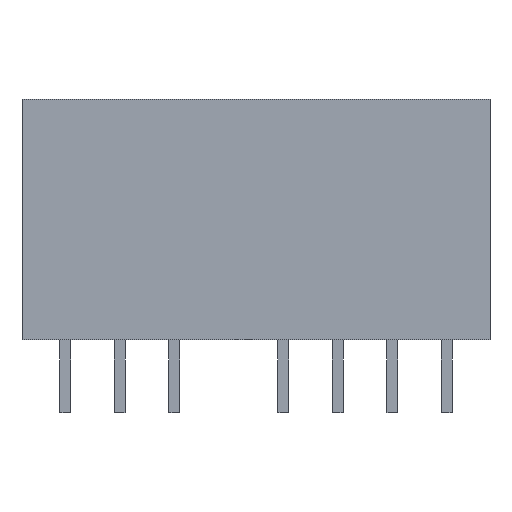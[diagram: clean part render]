
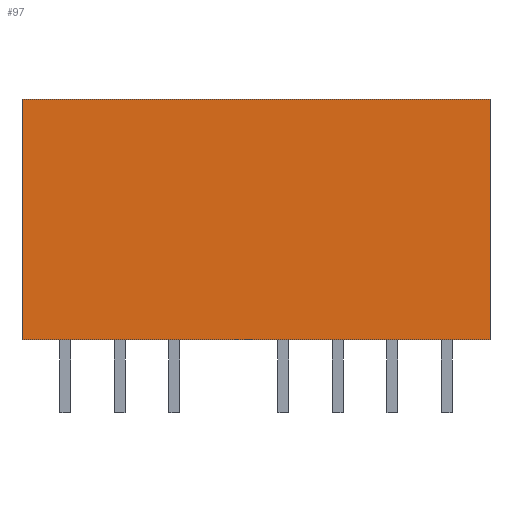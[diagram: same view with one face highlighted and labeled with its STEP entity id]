
A CAD part, front view. The second image highlights one B-rep face of the part: STEP entity #97.
In plain terms, the highlighted planar face has unit normal (0, -1, 0).
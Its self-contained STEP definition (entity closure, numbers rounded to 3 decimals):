
#21 = EDGE_CURVE('',#22,#24,#26,.T.);
#22 = VERTEX_POINT('',#23);
#23 = CARTESIAN_POINT('',(-2.01,-6.8,0.4));
#24 = VERTEX_POINT('',#25);
#25 = CARTESIAN_POINT('',(-2.01,-6.8,11.6));
#26 = LINE('',#27,#28);
#27 = CARTESIAN_POINT('',(-2.01,-6.8,0.4));
#28 = VECTOR('',#29,1.);
#29 = DIRECTION('',(0.,0.,1.));
#61 = EDGE_CURVE('',#62,#64,#66,.T.);
#62 = VERTEX_POINT('',#63);
#63 = CARTESIAN_POINT('',(19.79,-6.8,0.4));
#64 = VERTEX_POINT('',#65);
#65 = CARTESIAN_POINT('',(19.79,-6.8,11.6));
#66 = LINE('',#67,#68);
#67 = CARTESIAN_POINT('',(19.79,-6.8,0.4));
#68 = VECTOR('',#69,1.);
#69 = DIRECTION('',(0.,0.,1.));
#97 = ADVANCED_FACE('',(#98),#114,.F.);
#98 = FACE_BOUND('',#99,.F.);
#99 = EDGE_LOOP('',(#100,#106,#107,#113));
#100 = ORIENTED_EDGE('',*,*,#101,.F.);
#101 = EDGE_CURVE('',#22,#62,#102,.T.);
#102 = LINE('',#103,#104);
#103 = CARTESIAN_POINT('',(-2.01,-6.8,0.4));
#104 = VECTOR('',#105,1.);
#105 = DIRECTION('',(1.,0.,0.));
#106 = ORIENTED_EDGE('',*,*,#21,.T.);
#107 = ORIENTED_EDGE('',*,*,#108,.T.);
#108 = EDGE_CURVE('',#24,#64,#109,.T.);
#109 = LINE('',#110,#111);
#110 = CARTESIAN_POINT('',(-2.01,-6.8,11.6));
#111 = VECTOR('',#112,1.);
#112 = DIRECTION('',(1.,0.,0.));
#113 = ORIENTED_EDGE('',*,*,#61,.F.);
#114 = PLANE('',#115);
#115 = AXIS2_PLACEMENT_3D('',#116,#117,#118);
#116 = CARTESIAN_POINT('',(-2.01,-6.8,0.4));
#117 = DIRECTION('',(0.,1.,0.));
#118 = DIRECTION('',(0.,0.,1.));
